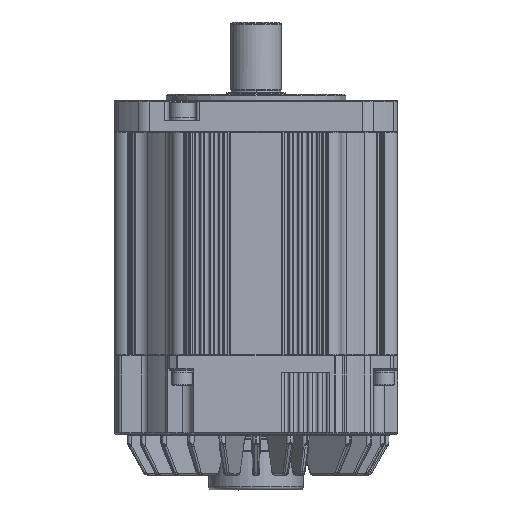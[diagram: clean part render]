
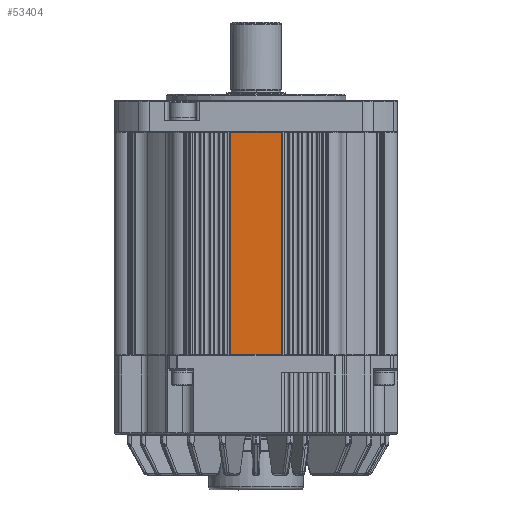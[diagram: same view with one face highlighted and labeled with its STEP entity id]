
A CAD part, front view. The second image highlights one B-rep face of the part: STEP entity #53404.
In plain terms, the highlighted planar face has unit normal (0, -1, 0).
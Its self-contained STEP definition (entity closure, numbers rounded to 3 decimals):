
#2332=DIRECTION('',(-1.,0.,0.));
#2333=VECTOR('',#2332,32.392);
#2334=CARTESIAN_POINT('',(16.196,-90.,162.5));
#2335=LINE('',#2334,#2333);
#6148=DIRECTION('',(0.,0.,1.));
#6149=VECTOR('',#6148,141.5);
#6150=CARTESIAN_POINT('',(-16.196,-90.,21.));
#6151=LINE('',#6150,#6149);
#6152=DIRECTION('',(0.,0.,1.));
#6153=VECTOR('',#6152,141.5);
#6154=CARTESIAN_POINT('',(16.196,-90.,21.));
#6155=LINE('',#6154,#6153);
#7886=DIRECTION('',(1.,0.,0.));
#7887=VECTOR('',#7886,32.392);
#7888=CARTESIAN_POINT('',(-16.196,-90.,21.));
#7889=LINE('',#7888,#7887);
#36391=CARTESIAN_POINT('',(16.196,-90.,162.5));
#36392=VERTEX_POINT('',#36391);
#36393=CARTESIAN_POINT('',(-16.196,-90.,162.5));
#36394=VERTEX_POINT('',#36393);
#38313=CARTESIAN_POINT('',(-16.196,-90.,21.));
#38314=VERTEX_POINT('',#38313);
#38315=CARTESIAN_POINT('',(16.196,-90.,21.));
#38316=VERTEX_POINT('',#38315);
#53391=CARTESIAN_POINT('',(-54.,-90.,71.5));
#53392=DIRECTION('',(0.,-1.,0.));
#53393=DIRECTION('',(1.,0.,0.));
#53394=AXIS2_PLACEMENT_3D('',#53391,#53392,#53393);
#53395=PLANE('',#53394);
#53397=ORIENTED_EDGE('',*,*,#53396,.F.);
#53399=ORIENTED_EDGE('',*,*,#53398,.F.);
#53400=ORIENTED_EDGE('',*,*,#53382,.T.);
#53401=ORIENTED_EDGE('',*,*,#46798,.F.);
#53402=EDGE_LOOP('',(#53397,#53399,#53400,#53401));
#53403=FACE_OUTER_BOUND('',#53402,.F.);
#46798=EDGE_CURVE('',#36392,#36394,#2335,.T.);
#53382=EDGE_CURVE('',#38314,#36394,#6151,.T.);
#53396=EDGE_CURVE('',#38316,#36392,#6155,.T.);
#53398=EDGE_CURVE('',#38314,#38316,#7889,.T.);
#53404=ADVANCED_FACE('',(#53403),#53395,.T.);
